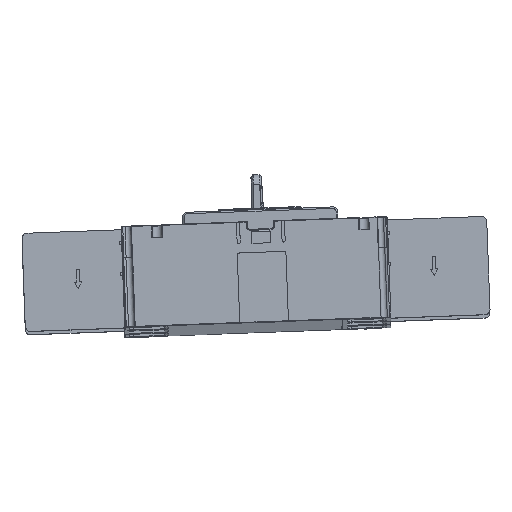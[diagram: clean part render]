
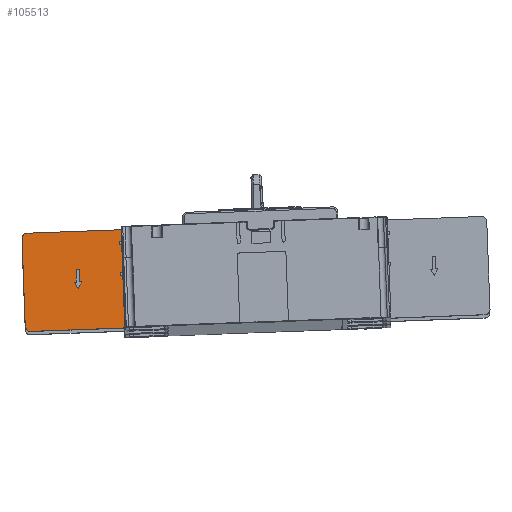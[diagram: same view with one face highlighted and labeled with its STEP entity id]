
A CAD part, top view. The second image highlights one B-rep face of the part: STEP entity #105513.
In plain terms, the highlighted planar face has unit normal (0, 0.053, 0.999).
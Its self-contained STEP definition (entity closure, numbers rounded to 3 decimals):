
#16199=DIRECTION('',(-0.999,-0.037,0.002));
#16200=VECTOR('',#16199,0.518);
#16201=CARTESIAN_POINT('',(3.85,-104.733,
-60.609));
#16202=LINE('',#16201,#16200);
#16203=DIRECTION('',(-0.037,0.998,-0.053));
#16204=VECTOR('',#16203,6.644);
#16205=CARTESIAN_POINT('',(4.094,-111.364,
-60.256));
#16206=LINE('',#16205,#16204);
#16207=DIRECTION('',(-0.999,-0.037,0.002));
#16208=VECTOR('',#16207,5.123);
#16209=CARTESIAN_POINT('',(4.094,-111.364,
-60.256));
#16210=LINE('',#16209,#16208);
#16211=DIRECTION('',(-0.037,0.998,-0.053));
#16212=VECTOR('',#16211,2.711);
#16213=CARTESIAN_POINT('',(-0.926,-114.257,
-60.102));
#16214=LINE('',#16213,#16212);
#16215=DIRECTION('',(-0.999,-0.037,0.002));
#16216=VECTOR('',#16215,5.123);
#16217=CARTESIAN_POINT('',(4.194,-114.069,
-60.112));
#16218=LINE('',#16217,#16216);
#16219=DIRECTION('',(-0.037,0.998,-0.053));
#16220=VECTOR('',#16219,27.289);
#16221=CARTESIAN_POINT('',(5.197,-141.301,
-58.661));
#16222=LINE('',#16221,#16220);
#16223=DIRECTION('',(-0.999,-0.037,0.002));
#16224=VECTOR('',#16223,5.123);
#16225=CARTESIAN_POINT('',(5.197,-141.301,
-58.661));
#16226=LINE('',#16225,#16224);
#16227=DIRECTION('',(-0.037,0.998,-0.053));
#16228=VECTOR('',#16227,2.711);
#16229=CARTESIAN_POINT('',(0.178,-144.195,
-58.507));
#16230=LINE('',#16229,#16228);
#16231=DIRECTION('',(-0.999,-0.037,0.002));
#16232=VECTOR('',#16231,5.123);
#16233=CARTESIAN_POINT('',(5.297,-144.006,
-58.517));
#16234=LINE('',#16233,#16232);
#16235=DIRECTION('',(-0.037,0.998,-0.053));
#16236=VECTOR('',#16235,42.644);
#16237=CARTESIAN_POINT('',(6.866,-186.562,
-56.249));
#16238=LINE('',#16237,#16236);
#16239=DIRECTION('',(-0.999,-0.037,0.002));
#16240=VECTOR('',#16239,94.649);
#16241=CARTESIAN_POINT('',(7.686,-194.526,
-55.825));
#16242=LINE('',#16241,#16240);
#16243=CARTESIAN_POINT('',(-87.083,-193.012,
-55.906));
#16244=DIRECTION('',(0.,0.053,0.999));
#16245=DIRECTION('',(-0.999,-0.037,0.002));
#16246=AXIS2_PLACEMENT_3D('',#16243,#16244,#16245);
#16248=DIRECTION('',(-0.037,0.998,-0.053));
#16249=VECTOR('',#16248,85.);
#16250=CARTESIAN_POINT('',(-92.08,-193.196,
-55.896));
#16251=LINE('',#16250,#16249);
#16252=CARTESIAN_POINT('',(-90.21,-108.19,
-60.425));
#16253=DIRECTION('',(0.,0.053,0.999));
#16254=DIRECTION('',(-0.037,0.998,-0.053));
#16255=AXIS2_PLACEMENT_3D('',#16252,#16253,#16254);
#16257=DIRECTION('',(0.999,0.037,-0.002));
#16258=VECTOR('',#16257,93.605);
#16259=CARTESIAN_POINT('',(-90.394,-103.201,
-60.691));
#16260=LINE('',#16259,#16258);
#16261=DIRECTION('',(-0.037,0.998,-0.053));
#16262=VECTOR('',#16261,5.);
#16263=CARTESIAN_POINT('',(3.332,-104.752,
-60.608));
#16264=LINE('',#16263,#16262);
#16265=DIRECTION('',(0.037,-0.998,0.053));
#16266=VECTOR('',#16265,12.);
#16267=CARTESIAN_POINT('',(-40.066,-138.324,
-58.819));
#16268=LINE('',#16267,#16266);
#16269=DIRECTION('',(0.999,0.037,-0.002));
#16270=VECTOR('',#16269,3.);
#16271=CARTESIAN_POINT('',(-43.064,-138.434,
-58.814));
#16272=LINE('',#16271,#16270);
#16273=DIRECTION('',(-0.037,0.998,-0.053));
#16274=VECTOR('',#16273,12.);
#16275=CARTESIAN_POINT('',(-42.622,-150.409,
-58.176));
#16276=LINE('',#16275,#16274);
#16277=DIRECTION('',(0.999,0.037,-0.002));
#16278=VECTOR('',#16277,2.);
#16279=CARTESIAN_POINT('',(-44.621,-150.482,
-58.172));
#16280=LINE('',#16279,#16278);
#16281=DIRECTION('',(-0.535,0.843,-0.045));
#16282=VECTOR('',#16281,6.946);
#16283=CARTESIAN_POINT('',(-40.903,-156.341,
-57.859));
#16284=LINE('',#16283,#16282);
#16285=DIRECTION('',(-0.472,-0.88,0.047));
#16286=VECTOR('',#16285,6.946);
#16287=CARTESIAN_POINT('',(-37.626,-150.225,
-58.185));
#16288=LINE('',#16287,#16286);
#16289=DIRECTION('',(0.999,0.037,-0.002));
#16290=VECTOR('',#16289,2.);
#16291=CARTESIAN_POINT('',(-39.624,-150.298,
-58.181));
#16292=LINE('',#16291,#16290);
#16551=CARTESIAN_POINT('',(6.866,-186.562,
-56.249));
#16552=CARTESIAN_POINT('',(6.962,-187.505,
-56.199));
#16553=CARTESIAN_POINT('',(7.152,-189.353,
-56.101));
#16554=CARTESIAN_POINT('',(7.425,-192.006,
-55.959));
#16555=CARTESIAN_POINT('',(7.6,-193.699,
-55.869));
#16556=CARTESIAN_POINT('',(7.686,-194.526,
-55.825));
#87650=CARTESIAN_POINT('',(-40.066,-138.324,
-58.819));
#87651=CARTESIAN_POINT('',(-39.624,-150.298,
-58.181));
#87652=VERTEX_POINT('',#87650);
#87653=VERTEX_POINT('',#87651);
#87654=CARTESIAN_POINT('',(-37.626,-150.225,
-58.185));
#87655=VERTEX_POINT('',#87654);
#87656=CARTESIAN_POINT('',(-40.903,-156.341,
-57.859));
#87657=VERTEX_POINT('',#87656);
#87658=CARTESIAN_POINT('',(-44.621,-150.482,
-58.172));
#87659=VERTEX_POINT('',#87658);
#87660=CARTESIAN_POINT('',(-42.622,-150.409,
-58.176));
#87661=VERTEX_POINT('',#87660);
#87662=CARTESIAN_POINT('',(-43.064,-138.434,
-58.814));
#87663=VERTEX_POINT('',#87662);
#87678=CARTESIAN_POINT('',(0.178,-144.195,
-58.507));
#87679=CARTESIAN_POINT('',(0.078,-141.489,
-58.651));
#87680=VERTEX_POINT('',#87678);
#87681=VERTEX_POINT('',#87679);
#87682=CARTESIAN_POINT('',(-0.926,-114.257,
-60.102));
#87683=CARTESIAN_POINT('',(-1.025,-111.552,
-60.246));
#87684=VERTEX_POINT('',#87682);
#87685=VERTEX_POINT('',#87683);
#87686=CARTESIAN_POINT('',(4.094,-111.364,
-60.256));
#87687=VERTEX_POINT('',#87686);
#87688=CARTESIAN_POINT('',(4.194,-114.069,
-60.112));
#87689=VERTEX_POINT('',#87688);
#87690=CARTESIAN_POINT('',(5.197,-141.301,
-58.661));
#87691=VERTEX_POINT('',#87690);
#87692=CARTESIAN_POINT('',(5.297,-144.006,
-58.517));
#87693=VERTEX_POINT('',#87692);
#87710=CARTESIAN_POINT('',(-92.08,-193.196,
-55.896));
#87711=CARTESIAN_POINT('',(-86.899,-198.002,
-55.64));
#87712=VERTEX_POINT('',#87710);
#87713=VERTEX_POINT('',#87711);
#87720=VERTEX_POINT('',#16551);
#87721=VERTEX_POINT('',#16556);
#87722=CARTESIAN_POINT('',(-90.394,-103.201,
-60.691));
#87723=CARTESIAN_POINT('',(-95.206,-108.374,
-60.415));
#87724=VERTEX_POINT('',#87722);
#87725=VERTEX_POINT('',#87723);
#87730=CARTESIAN_POINT('',(3.85,-104.733,
-60.609));
#87731=CARTESIAN_POINT('',(3.332,-104.752,
-60.608));
#87732=VERTEX_POINT('',#87730);
#87733=VERTEX_POINT('',#87731);
#87734=CARTESIAN_POINT('',(3.148,-99.763,
-60.874));
#87735=VERTEX_POINT('',#87734);
#105462=CARTESIAN_POINT('',(-41.179,-148.857,
-58.258));
#105463=DIRECTION('',(0.,-0.053,
-0.999));
#105464=DIRECTION('',(-0.999,-0.037,0.002));
#105465=AXIS2_PLACEMENT_3D('',#105462,#105463,#105464);
#105466=PLANE('',#105465);
#105467=ORIENTED_EDGE('',*,*,#105452,.F.);
#105468=ORIENTED_EDGE('',*,*,#105442,.F.);
#105469=ORIENTED_EDGE('',*,*,#105402,.T.);
#105471=ORIENTED_EDGE('',*,*,#105470,.F.);
#105472=ORIENTED_EDGE('',*,*,#105398,.F.);
#105473=ORIENTED_EDGE('',*,*,#105439,.F.);
#105475=ORIENTED_EDGE('',*,*,#105474,.T.);
#105477=ORIENTED_EDGE('',*,*,#105476,.F.);
#105479=ORIENTED_EDGE('',*,*,#105478,.F.);
#105480=ORIENTED_EDGE('',*,*,#105435,.F.);
#105482=ORIENTED_EDGE('',*,*,#105481,.T.);
#105484=ORIENTED_EDGE('',*,*,#105483,.T.);
#105486=ORIENTED_EDGE('',*,*,#105485,.F.);
#105488=ORIENTED_EDGE('',*,*,#105487,.T.);
#105490=ORIENTED_EDGE('',*,*,#105489,.F.);
#105492=ORIENTED_EDGE('',*,*,#105491,.T.);
#105494=ORIENTED_EDGE('',*,*,#105493,.F.);
#105495=EDGE_LOOP('',(#105467,#105468,#105469,#105471,#105472,#105473,#105475,
#105477,#105479,#105480,#105482,#105484,#105486,#105488,#105490,#105492,
#105494));
#105496=FACE_OUTER_BOUND('',#105495,.F.);
#105498=ORIENTED_EDGE('',*,*,#105497,.F.);
#105500=ORIENTED_EDGE('',*,*,#105499,.F.);
#105502=ORIENTED_EDGE('',*,*,#105501,.F.);
#105504=ORIENTED_EDGE('',*,*,#105503,.F.);
#105506=ORIENTED_EDGE('',*,*,#105505,.F.);
#105508=ORIENTED_EDGE('',*,*,#105507,.F.);
#105510=ORIENTED_EDGE('',*,*,#105509,.F.);
#105511=EDGE_LOOP('',(#105498,#105500,#105502,#105504,#105506,#105508,#105510));
#105512=FACE_BOUND('',#105511,.F.);
#105513=ADVANCED_FACE('',(#105496,#105512),#105466,.F.);
#16247=CIRCLE('',#16246,5.);
#16256=CIRCLE('',#16255,5.);
#16557=B_SPLINE_CURVE_WITH_KNOTS('',3,(#16551,#16552,#16553,#16554,#16555,
#16556),.UNSPECIFIED.,.F.,.F.,(4,1,1,4),(0.,0.333,
0.667,1.),.UNSPECIFIED.);
#105398=EDGE_CURVE('',#87689,#87684,#16218,.T.);
#105402=EDGE_CURVE('',#87687,#87685,#16210,.T.);
#105435=EDGE_CURVE('',#87720,#87693,#16238,.T.);
#105439=EDGE_CURVE('',#87691,#87689,#16222,.T.);
#105442=EDGE_CURVE('',#87687,#87732,#16206,.T.);
#105452=EDGE_CURVE('',#87732,#87733,#16202,.T.);
#105470=EDGE_CURVE('',#87684,#87685,#16214,.T.);
#105474=EDGE_CURVE('',#87691,#87681,#16226,.T.);
#105476=EDGE_CURVE('',#87680,#87681,#16230,.T.);
#105478=EDGE_CURVE('',#87693,#87680,#16234,.T.);
#105481=EDGE_CURVE('',#87720,#87721,#16557,.T.);
#105483=EDGE_CURVE('',#87721,#87713,#16242,.T.);
#105485=EDGE_CURVE('',#87712,#87713,#16247,.T.);
#105487=EDGE_CURVE('',#87712,#87725,#16251,.T.);
#105489=EDGE_CURVE('',#87724,#87725,#16256,.T.);
#105491=EDGE_CURVE('',#87724,#87735,#16260,.T.);
#105493=EDGE_CURVE('',#87733,#87735,#16264,.T.);
#105497=EDGE_CURVE('',#87652,#87653,#16268,.T.);
#105499=EDGE_CURVE('',#87663,#87652,#16272,.T.);
#105501=EDGE_CURVE('',#87661,#87663,#16276,.T.);
#105503=EDGE_CURVE('',#87659,#87661,#16280,.T.);
#105505=EDGE_CURVE('',#87657,#87659,#16284,.T.);
#105507=EDGE_CURVE('',#87655,#87657,#16288,.T.);
#105509=EDGE_CURVE('',#87653,#87655,#16292,.T.);
